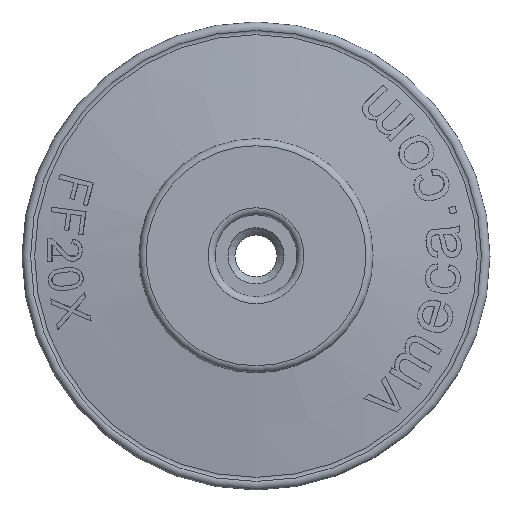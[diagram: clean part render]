
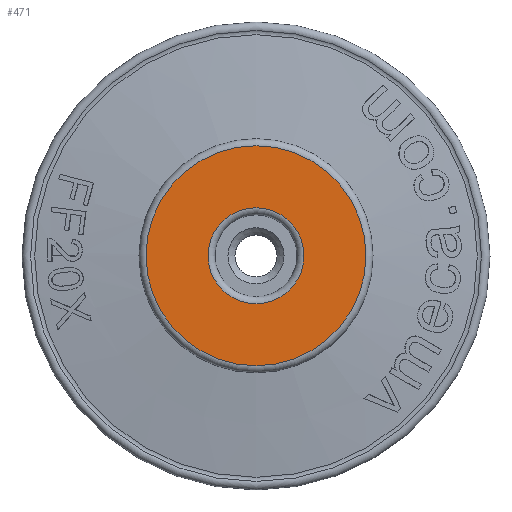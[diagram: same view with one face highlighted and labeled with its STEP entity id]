
A CAD part, top view. The second image highlights one B-rep face of the part: STEP entity #471.
In plain terms, the highlighted planar face has unit normal (0, 0, 1).
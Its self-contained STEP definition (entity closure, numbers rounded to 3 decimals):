
#471 = ADVANCED_FACE( '', ( #1007, #1008 ), #1009, .T. );
#1007 = FACE_BOUND( '', #3498, .T. );
#1008 = FACE_OUTER_BOUND( '', #3499, .T. );
#1009 = PLANE( '', #3500 );
#3498 = EDGE_LOOP( '', ( #4819 ) );
#3499 = EDGE_LOOP( '', ( #4820 ) );
#3500 = AXIS2_PLACEMENT_3D( '', #4821, #4822, #4823 );
#4819 = ORIENTED_EDGE( '', *, *, #5067, .T. );
#4820 = ORIENTED_EDGE( '', *, *, #5456, .F. );
#4821 = CARTESIAN_POINT( '', ( -4.7, 0., 3.5 ) );
#4822 = DIRECTION( '', ( 0., 0., 1. ) );
#4823 = DIRECTION( '', ( 1., 0., 0. ) );
#5067 = EDGE_CURVE( '', #5660, #5660, #5661, .T. );
#5456 = EDGE_CURVE( '', #6298, #6298, #6299, .T. );
#5660 = VERTEX_POINT( '', #6575 );
#5661 = CIRCLE( '', #6576, 2.05 );
#6298 = VERTEX_POINT( '', #8948 );
#6299 = CIRCLE( '', #8949, 4.7 );
#6575 = CARTESIAN_POINT( '', ( -2.05, 0., 3.5 ) );
#6576 = AXIS2_PLACEMENT_3D( '', #9345, #9346, #9347 );
#8948 = CARTESIAN_POINT( '', ( -4.7, 0., 3.5 ) );
#8949 = AXIS2_PLACEMENT_3D( '', #9518, #9519, #9520 );
#9345 = CARTESIAN_POINT( '', ( 0., 0., 3.5 ) );
#9346 = DIRECTION( '', ( 0., 0., -1. ) );
#9347 = DIRECTION( '', ( -1., 0., 0. ) );
#9518 = CARTESIAN_POINT( '', ( 0., 0., 3.5 ) );
#9519 = DIRECTION( '', ( 0., 0., -1. ) );
#9520 = DIRECTION( '', ( -1., 0., 0. ) );
